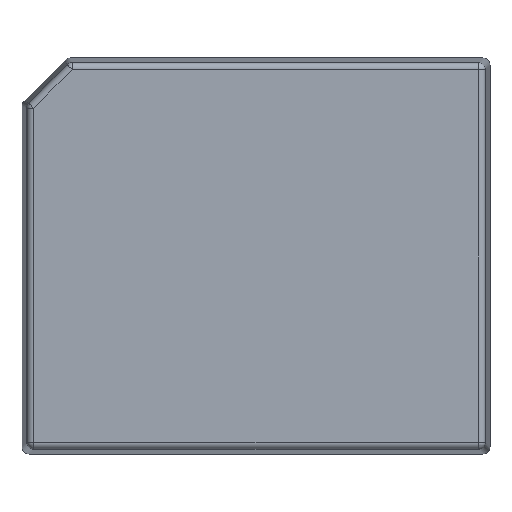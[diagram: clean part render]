
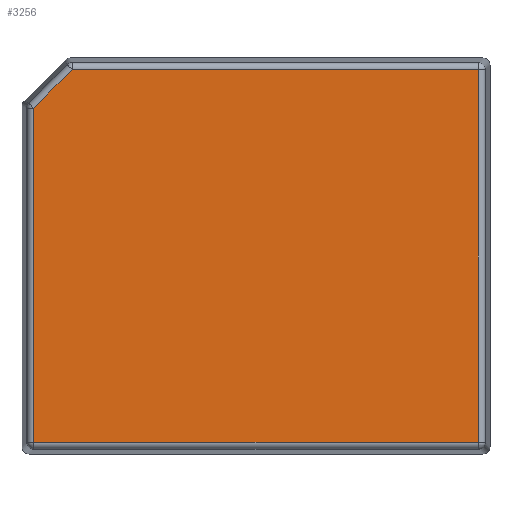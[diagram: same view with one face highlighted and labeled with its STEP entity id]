
A CAD part, front view. The second image highlights one B-rep face of the part: STEP entity #3256.
In plain terms, the highlighted planar face has unit normal (0, -1, 0).
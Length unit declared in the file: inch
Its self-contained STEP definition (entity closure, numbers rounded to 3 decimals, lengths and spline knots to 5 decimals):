
#458 = CARTESIAN_POINT ( 'NONE',  ( 0.61756, -0.75, 0.53691 ) ) ;
#722 = DIRECTION ( 'NONE',  ( 0., 0., 1. ) ) ;
#1176 = ORIENTED_EDGE ( 'NONE', *, *, #15773, .T. ) ;
#1679 = CARTESIAN_POINT ( 'NONE',  ( -0.51058, -0.75, 0.51756 ) ) ;
#1749 = LINE ( 'NONE', #11752, #10714 ) ;
#1906 = DIRECTION ( 'NONE',  ( 0., 1., 0. ) ) ;
#2131 = VERTEX_POINT ( 'NONE', #12186 ) ;
#2765 = LINE ( 'NONE', #10284, #5961 ) ;
#3094 = VERTEX_POINT ( 'NONE', #1679 ) ;
#3256 = ADVANCED_FACE ( 'NONE', ( #14091 ), #7092, .F. ) ;
#3670 = VERTEX_POINT ( 'NONE', #8296 ) ;
#3865 = LINE ( 'NONE', #458, #8258 ) ;
#4130 = DIRECTION ( 'NONE',  ( 1., 0., 0. ) ) ;
#4328 = ORIENTED_EDGE ( 'NONE', *, *, #8483, .T. ) ;
#4715 = EDGE_LOOP ( 'NONE', ( #14867, #4792, #4328, #14315, #1176 ) ) ;
#4792 = ORIENTED_EDGE ( 'NONE', *, *, #9326, .T. ) ;
#5203 = DIRECTION ( 'NONE',  ( -0.707, 0., -0.707 ) ) ;
#5879 = LINE ( 'NONE', #16039, #12440 ) ;
#5961 = VECTOR ( 'NONE', #11695, 39.37008 ) ;
#6726 = DIRECTION ( 'NONE',  ( 0., 0., 1. ) ) ;
#6778 = EDGE_CURVE ( 'NONE', #2131, #3094, #2765, .T. ) ;
#6811 = EDGE_CURVE ( 'NONE', #8471, #3670, #1749, .T. ) ;
#7092 = PLANE ( 'NONE',  #7602 ) ;
#7602 = AXIS2_PLACEMENT_3D ( 'NONE', #8321, #1906, #722 ) ;
#8258 = VECTOR ( 'NONE', #6726, 39.37008 ) ;
#8296 = CARTESIAN_POINT ( 'NONE',  ( 0.61756, -0.75, -0.51756 ) ) ;
#8321 = CARTESIAN_POINT ( 'NONE',  ( -0.65, -0.75, 0.55 ) ) ;
#8471 = VERTEX_POINT ( 'NONE', #16213 ) ;
#8483 = EDGE_CURVE ( 'NONE', #15440, #8471, #5879, .T. ) ;
#9326 = EDGE_CURVE ( 'NONE', #3094, #15440, #16412, .T. ) ;
#9807 = DIRECTION ( 'NONE',  ( 0., 0., -1. ) ) ;
#10028 = CARTESIAN_POINT ( 'NONE',  ( -0.62323, -0.75, 0.40491 ) ) ;
#10284 = CARTESIAN_POINT ( 'NONE',  ( -0.51859, -0.75, 0.51756 ) ) ;
#10714 = VECTOR ( 'NONE', #4130, 39.37008 ) ;
#11695 = DIRECTION ( 'NONE',  ( -1., 0., 0. ) ) ;
#11752 = CARTESIAN_POINT ( 'NONE',  ( 0.63691, -0.75, -0.51756 ) ) ;
#12186 = CARTESIAN_POINT ( 'NONE',  ( 0.61756, -0.75, 0.51756 ) ) ;
#12440 = VECTOR ( 'NONE', #9807, 39.37008 ) ;
#13404 = VECTOR ( 'NONE', #5203, 39.37008 ) ;
#14091 = FACE_OUTER_BOUND ( 'NONE', #4715, .T. ) ;
#14315 = ORIENTED_EDGE ( 'NONE', *, *, #6811, .T. ) ;
#14867 = ORIENTED_EDGE ( 'NONE', *, *, #6778, .T. ) ;
#15334 = CARTESIAN_POINT ( 'NONE',  ( -0.61756, -0.75, 0.41058 ) ) ;
#15440 = VERTEX_POINT ( 'NONE', #15334 ) ;
#15773 = EDGE_CURVE ( 'NONE', #3670, #2131, #3865, .T. ) ;
#16039 = CARTESIAN_POINT ( 'NONE',  ( -0.61756, -0.75, -0.53691 ) ) ;
#16213 = CARTESIAN_POINT ( 'NONE',  ( -0.61756, -0.75, -0.51756 ) ) ;
#16412 = LINE ( 'NONE', #10028, #13404 ) ;
